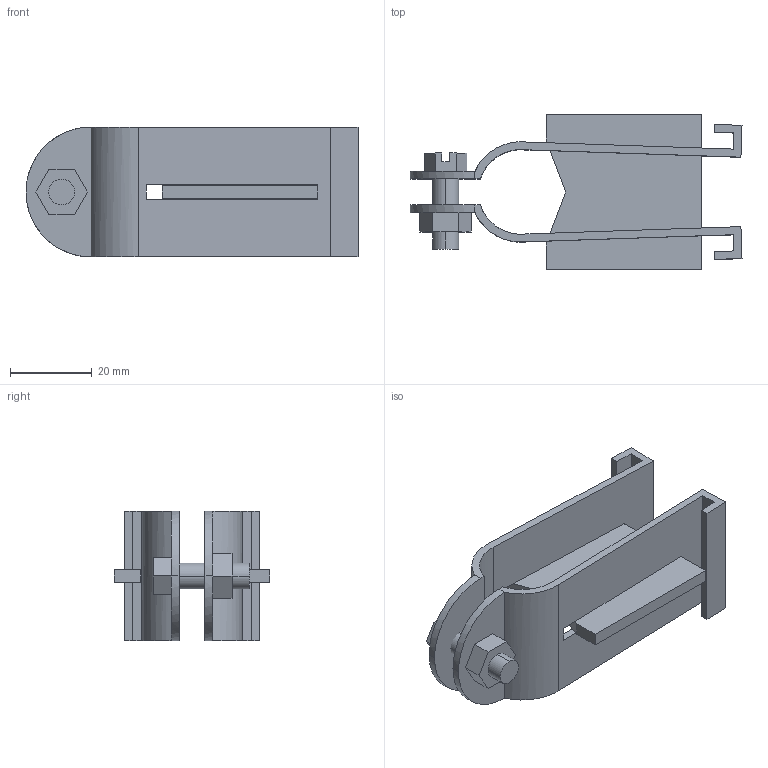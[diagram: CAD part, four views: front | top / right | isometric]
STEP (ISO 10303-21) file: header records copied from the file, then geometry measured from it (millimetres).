
FILE_DESCRIPTION(('TurboCAD Mac Pro'),'Build 980');
FILE_NAME('P1564.stp',' ',(''),(''),'ACIS Interop','IMSI','TurboCAD Mac Pro BY IMSI, INCORPORATED');
FILE_SCHEMA(('automotive_design'));
Length unit declared in the file: inch
Products named in the file (5): 1; 2; 3; 4; 5
Bounding box: 81.17 x 38.1 x 31.74 mm (x, y, z)
Volume: 16104 mm3; surface area: 16619.6 mm2
Topology: 5 solids, 5 shells, 76 faces, 195 edges, 130 vertices
Faces by surface type: plane 60, bspline 16
Entity records: 3706 total; most frequent: CARTESIAN_POINT 614, ORIENTED_EDGE 390, DIRECTION 293, STYLED_ITEM 204, PRESENTATION_STYLE_ASSIGNMENT 204, COLOUR_RGB 204, EDGE_CURVE 195, LINE 163
